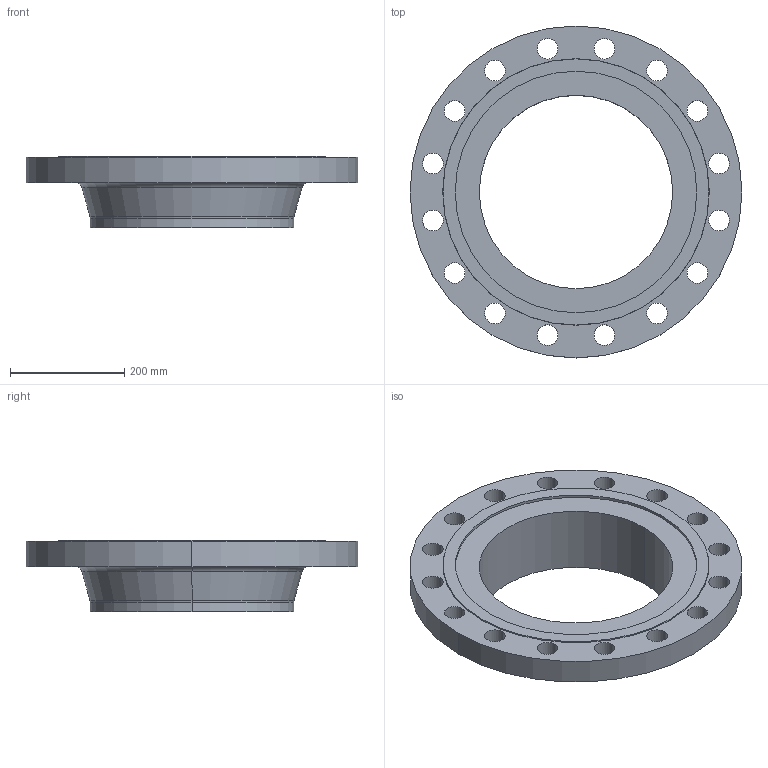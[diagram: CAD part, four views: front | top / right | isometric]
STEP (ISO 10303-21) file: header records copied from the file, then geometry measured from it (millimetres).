
FILE_DESCRIPTION (( 'STEP AP214' ), '1' );
FILE_NAME ('PN40 DN350 Type 11 - Type F Face.STEP', '2019-01-05T21:52:57', ( '' ), ( '' ), 'SwSTEP 2.0', 'SolidWorks 2019', '' );
FILE_SCHEMA (( 'AUTOMOTIVE_DESIGN' ));
Length unit declared in the file: millimetre
Products named in the file (1): PN40 DN350 Type 11 - Type F Face
Bounding box: 580 x 580 x 125 mm (x, y, z)
Volume: 8245616.4 mm3; surface area: 683749.6 mm2
Topology: 1 solids, 1 shells, 53 faces, 138 edges, 90 vertices
Faces by surface type: cylinder 40, plane 5, torus 4, cone 4
Entity records: 1780 total; most frequent: DIRECTION 340, CARTESIAN_POINT 282, ORIENTED_EDGE 276, AXIS2_PLACEMENT_3D 148, EDGE_CURVE 138, CIRCLE 94, VERTEX_POINT 90, EDGE_LOOP 90
